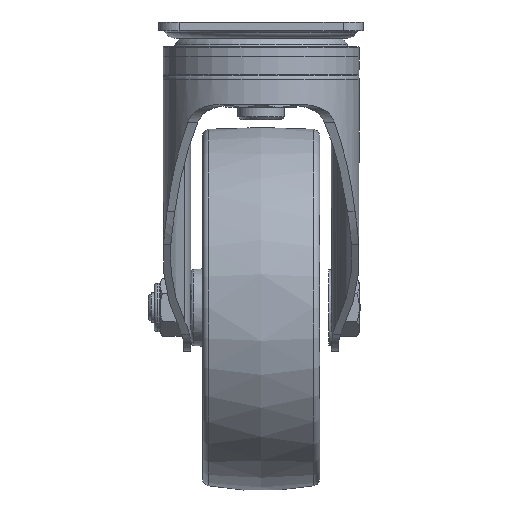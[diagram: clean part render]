
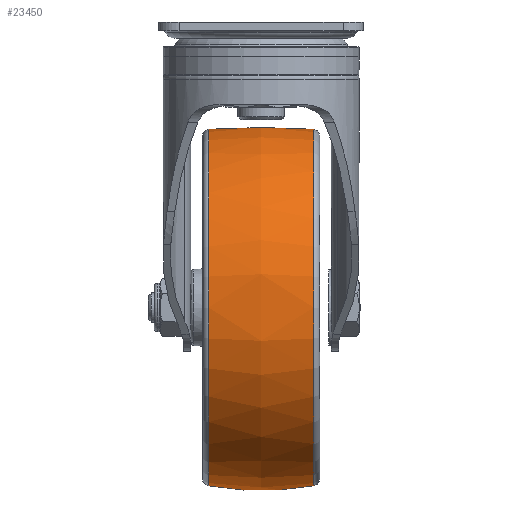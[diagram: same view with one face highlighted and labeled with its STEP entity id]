
A CAD part, left-side view. The second image highlights one B-rep face of the part: STEP entity #23450.
In plain terms, the highlighted free-form (B-spline) face has degree [2, 2] with [3, 9] control points.
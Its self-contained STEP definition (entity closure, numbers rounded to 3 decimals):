
#15=(
BOUNDED_SURFACE()
B_SPLINE_SURFACE(2,2,((#35320,#35321,#35322,#35323,#35324,#35325,#35326,
#35327,#35328),(#35329,#35330,#35331,#35332,#35333,#35334,#35335,#35336,
#35337),(#35338,#35339,#35340,#35341,#35342,#35343,#35344,#35345,#35346)),
 .UNSPECIFIED.,.F.,.T.,.F.)
B_SPLINE_SURFACE_WITH_KNOTS((3,3),(3,2,2,2,3),(-0.18,0.18),
(-3.142,-1.571,0.,1.571,3.142),
 .UNSPECIFIED.)
GEOMETRIC_REPRESENTATION_ITEM()
RATIONAL_B_SPLINE_SURFACE(((1.,0.707,1.,0.707,1.,
0.707,1.,0.707,1.),(0.984,0.696,
0.984,0.696,0.984,0.696,
0.984,0.696,0.984),(1.,0.707,
1.,0.707,1.,0.707,1.,0.707,1.)))
REPRESENTATION_ITEM('')
SURFACE()
);
#7249=FACE_OUTER_BOUND('',#8607,.T.);
#8607=EDGE_LOOP('',(#18671,#18672,#18673,#18674));
#9628=CIRCLE('',#24774,60.876);
#9630=CIRCLE('',#24776,60.876);
#9631=CIRCLE('',#24777,100.);
#10929=VERTEX_POINT('',#35317);
#10930=VERTEX_POINT('',#35347);
#13773=EDGE_CURVE('',#10929,#10929,#9628,.T.);
#13775=EDGE_CURVE('',#10930,#10930,#9630,.T.);
#13776=EDGE_CURVE('',#10930,#10929,#9631,.T.);
#18671=ORIENTED_EDGE('',*,*,#13775,.F.);
#18672=ORIENTED_EDGE('',*,*,#13776,.T.);
#18673=ORIENTED_EDGE('',*,*,#13773,.T.);
#18674=ORIENTED_EDGE('',*,*,#13776,.F.);
#23450=ADVANCED_FACE('',(#7249),#15,.F.);
#24774=AXIS2_PLACEMENT_3D('',#35318,#27520,#27521);
#24776=AXIS2_PLACEMENT_3D('',#35348,#27524,#27525);
#24777=AXIS2_PLACEMENT_3D('',#35349,#27526,#27527);
#27520=DIRECTION('center_axis',(0.,-1.,0.));
#27521=DIRECTION('ref_axis',(0.,0.,
1.));
#27524=DIRECTION('center_axis',(0.,-1.,0.));
#27525=DIRECTION('ref_axis',(0.,0.,
1.));
#27526=DIRECTION('center_axis',(1.,0.,0.));
#27527=DIRECTION('ref_axis',(0.,0.,
-1.));
#35317=CARTESIAN_POINT('',(32.,17.949,-157.176));
#35318=CARTESIAN_POINT('Origin',(32.,17.949,-96.3));
#35320=CARTESIAN_POINT('Ctrl Pts',(32.,17.949,-157.176));
#35321=CARTESIAN_POINT('Ctrl Pts',(92.876,17.949,-157.176));
#35322=CARTESIAN_POINT('Ctrl Pts',(92.876,17.949,-96.3));
#35323=CARTESIAN_POINT('Ctrl Pts',(92.876,17.949,-35.424));
#35324=CARTESIAN_POINT('Ctrl Pts',(32.,17.949,-35.424));
#35325=CARTESIAN_POINT('Ctrl Pts',(-28.876,17.949,-35.424));
#35326=CARTESIAN_POINT('Ctrl Pts',(-28.876,17.949,-96.3));
#35327=CARTESIAN_POINT('Ctrl Pts',(-28.876,17.949,-157.176));
#35328=CARTESIAN_POINT('Ctrl Pts',(32.,17.949,-157.176));
#35329=CARTESIAN_POINT('Ctrl Pts',(32.,0.,
-160.451));
#35330=CARTESIAN_POINT('Ctrl Pts',(96.151,0.,
-160.451));
#35331=CARTESIAN_POINT('Ctrl Pts',(96.151,0.,
-96.3));
#35332=CARTESIAN_POINT('Ctrl Pts',(96.151,0.,
-32.149));
#35333=CARTESIAN_POINT('Ctrl Pts',(32.,0.,
-32.149));
#35334=CARTESIAN_POINT('Ctrl Pts',(-32.151,0.,
-32.149));
#35335=CARTESIAN_POINT('Ctrl Pts',(-32.151,0.,
-96.3));
#35336=CARTESIAN_POINT('Ctrl Pts',(-32.151,0.,
-160.451));
#35337=CARTESIAN_POINT('Ctrl Pts',(32.,0.,
-160.451));
#35338=CARTESIAN_POINT('Ctrl Pts',(32.,-17.949,-157.176));
#35339=CARTESIAN_POINT('Ctrl Pts',(92.876,-17.949,-157.176));
#35340=CARTESIAN_POINT('Ctrl Pts',(92.876,-17.949,-96.3));
#35341=CARTESIAN_POINT('Ctrl Pts',(92.876,-17.949,-35.424));
#35342=CARTESIAN_POINT('Ctrl Pts',(32.,-17.949,-35.424));
#35343=CARTESIAN_POINT('Ctrl Pts',(-28.876,-17.949,
-35.424));
#35344=CARTESIAN_POINT('Ctrl Pts',(-28.876,-17.949,
-96.3));
#35345=CARTESIAN_POINT('Ctrl Pts',(-28.876,-17.949,-157.176));
#35346=CARTESIAN_POINT('Ctrl Pts',(32.,-17.949,-157.176));
#35347=CARTESIAN_POINT('',(32.,-17.949,-157.176));
#35348=CARTESIAN_POINT('Origin',(32.,-17.949,-96.3));
#35349=CARTESIAN_POINT('Origin',(32.,0.,-58.8));
